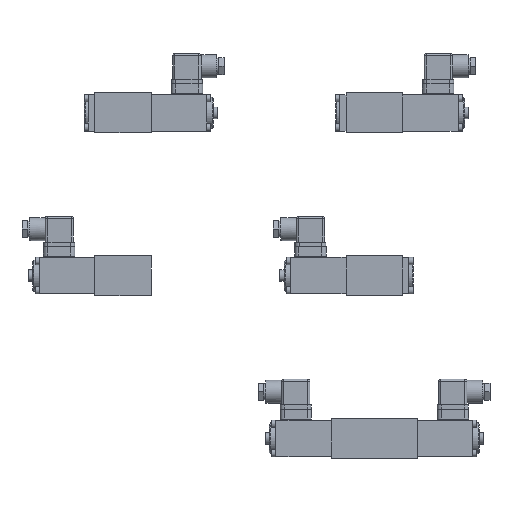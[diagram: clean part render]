
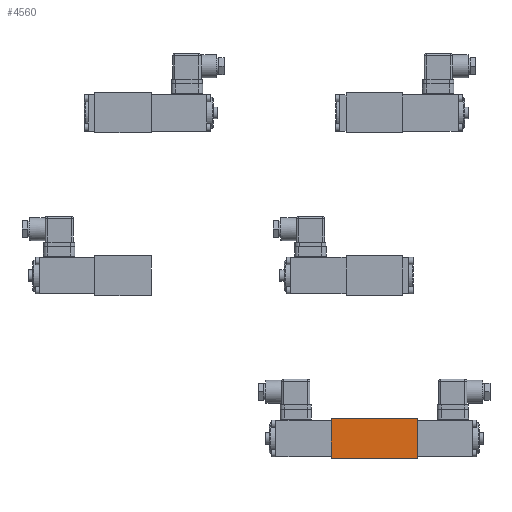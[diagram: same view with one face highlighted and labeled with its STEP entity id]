
A CAD part, front view. The second image highlights one B-rep face of the part: STEP entity #4560.
In plain terms, the highlighted planar face has unit normal (0, -1, 0).
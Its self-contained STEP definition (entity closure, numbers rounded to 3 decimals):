
#4560=ADVANCED_FACE('', (#4570), #4580, .T.);
#59600=AXIS2_PLACEMENT_3D('Ax2Pl3d', #59610, #59620, #59630);
#167860=CARTESIAN_POINT('', (82.,0.,0.));
#167870=CARTESIAN_POINT('', (0.,0.,0.));
#167880=CARTESIAN_POINT('', (82.,0.,0.));
#168180=CARTESIAN_POINT('', (82.,0.,38.));
#168190=CARTESIAN_POINT('', (82.,0.,38.));
#168280=CARTESIAN_POINT('', (0.,0.,38.));
#168290=CARTESIAN_POINT('', (0.,0.,38.));
#168400=CARTESIAN_POINT('', (82.,0.,38.));
#59610=CARTESIAN_POINT('HicPkt', (0.,0.,0.));
#320910=DIRECTION('', (1.,0.,0.));
#320970=DIRECTION('', (0.,0.,1.));
#320980=DIRECTION('', (0.,0.,1.));
#321010=DIRECTION('', (1.,0.,0.));
#59620=DIRECTION('Axis', (0.,-1.,
0.));
#59630=DIRECTION('RefDirection', (0.,
0.,-1.));
#339810=EDGE_CURVE('', #339820, #339830, #339840, .T.);
#340410=EDGE_CURVE('', #339830, #340390, #340420, .T.);
#340590=EDGE_CURVE('', #339820, #340600, #340610, .T.);
#340810=EDGE_CURVE('', #340600, #340390, #340820, .T.);
#409230=EDGE_LOOP('Edge_loop', (#409240,#409250,#409260,#409270));
#4570=FACE_OUTER_BOUND('Face_outer_bound', #409230, .T.);
#339840=LINE('Line', #167860, #522580);
#340420=LINE('Line', #168190, #522640);
#340610=LINE('Line', #168280, #522650);
#340820=LINE('Line', #168400, #522680);
#409240=ORIENTED_EDGE('', *, *, #339810, .T.);
#409250=ORIENTED_EDGE('', *, *, #340410, .T.);
#409260=ORIENTED_EDGE('', *, *, #340810, .F.);
#409270=ORIENTED_EDGE('', *, *, #340590, .F.);
#4580=PLANE('Plane', #59600);
#522580=VECTOR('', #320910, 82.);
#522640=VECTOR('', #320970, 38.);
#522650=VECTOR('', #320980, 38.);
#522680=VECTOR('', #321010, 82.);
#339820=VERTEX_POINT('', #167870);
#339830=VERTEX_POINT('', #167880);
#340390=VERTEX_POINT('', #168180);
#340600=VERTEX_POINT('', #168290);
